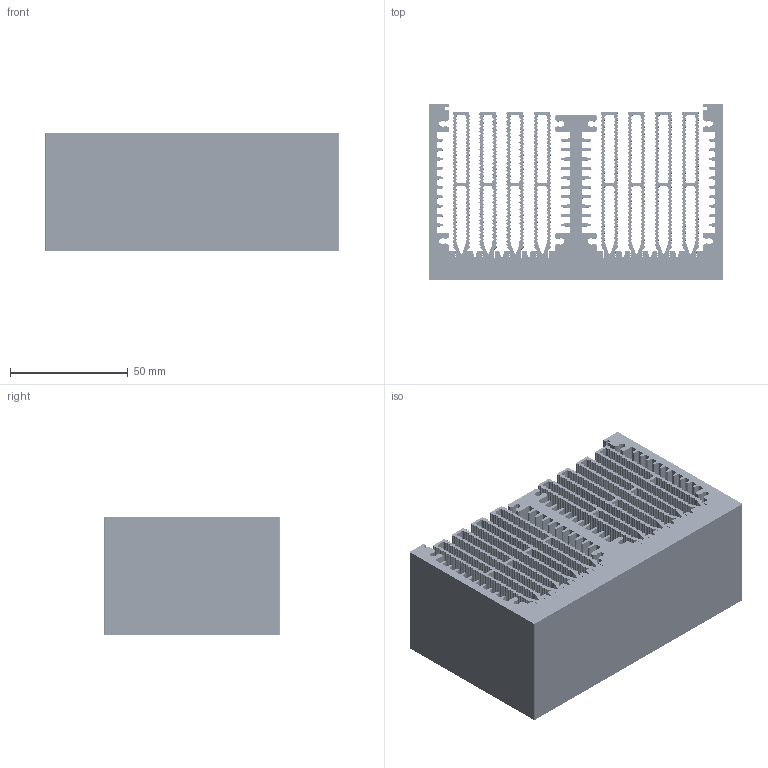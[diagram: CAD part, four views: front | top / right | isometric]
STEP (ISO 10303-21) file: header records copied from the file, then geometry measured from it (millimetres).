
FILE_DESCRIPTION (( 'STEP AP214' ), '1' );
FILE_NAME ('PR718_Komplett.STEP', '2008-02-08T06:30:45', ( 'Alutronic' ), ( 'Alutronic' ), 'SwSTEP 2.0', 'SolidWorks 2007', '' );
FILE_SCHEMA (( 'AUTOMOTIVE_DESIGN' ));
Length unit declared in the file: millimetre
Products named in the file (3): PR718_Grundkörper_Standard; PR718_Komplett; PR718_Rippe_Standard
Assembly tree (9 placements, depth 2):
  PR718_Komplett
    PR718_Grundkörper_Standard
    PR718_Rippe_Standard  x8
Bounding box: 125 x 75 x 50 mm (x, y, z)
Volume: 204434.6 mm3; surface area: 189753.3 mm2
Topology: 9 solids, 9 shells, 4442 faces, 13272 edges, 8848 vertices
Faces by surface type: cylinder 3914, plane 528
Entity records: 33938 total; most frequent: DIRECTION 6334, CARTESIAN_POINT 5896, ORIENTED_EDGE 5880, EDGE_CURVE 2940, AXIS2_PLACEMENT_3D 2398, VERTEX_POINT 1960, VECTOR 1538, LINE 1538
